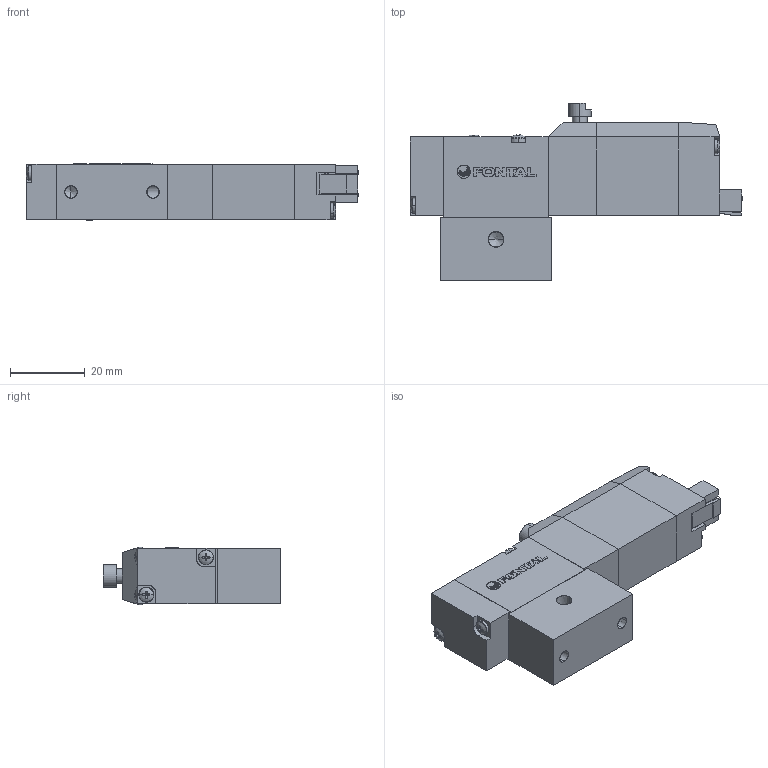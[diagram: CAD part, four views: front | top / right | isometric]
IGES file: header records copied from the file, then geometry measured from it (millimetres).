
Start section: SolidWorks IGES file using analytic representation for surfaces
Global section: file name: D:\Custom\3D繪製\PC\PCL5\PCL245#-M5-#-SP-#.IGS,1; native system: 5HSolidWorks 2014; preprocessor: SolidWorks 2014; author: Chieh_Lu; date: 150916.143133; units: millimetre
Bounding box: 89.07 x 47.5 x 15.4 mm (x, y, z)
Surface area: 15887.4 mm2 (no closed solid volume)
Topology: 0 solids, 0 shells, 535 faces, 4662 edges, 4636 vertices
Faces by surface type: bspline 348, revolution 187
